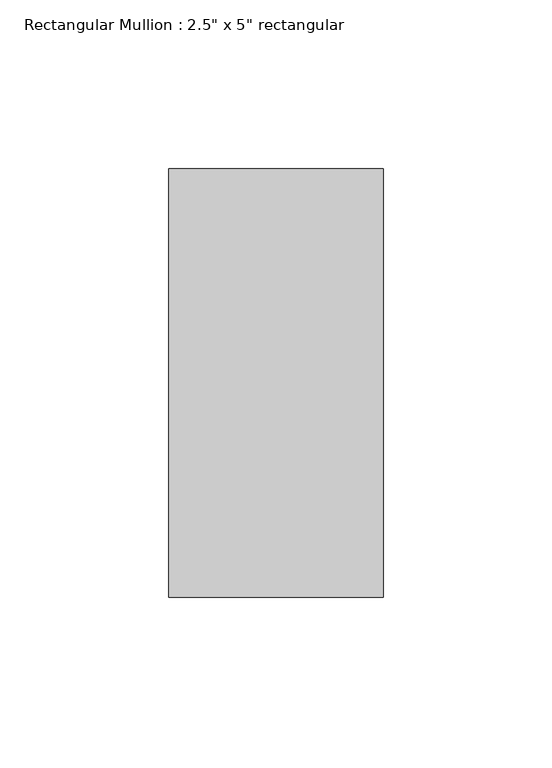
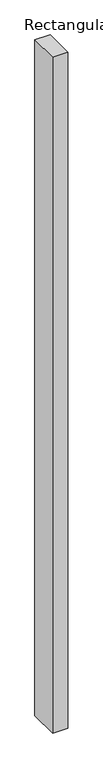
"""IFC4 building model written with IfcOpenShell, lengths in millimetres: member geometry."""

import ifcopenshell
import ifcopenshell.guid

model = None  # the IFC model being written
_history = None  # IfcOwnerHistory: only IFC2X3 demands one
_inside = {}  # id of a spatial element -> (the spatial element, [elements in it])
_under = {}  # id of a project, library or spatial element -> (it, [spatial elements below it])
_declared = {}  # id of a project -> (the project, [libraries it declares])
_typed = {}  # id of a type object -> (the type object, [elements of that type])
_made_of = {}  # id of a material, layer set ... -> (it, [elements and type objects made of it])


def new_model(schema):
    """Start an empty IFC model of exactly this schema.

    Asked for "IFC4X3", IfcOpenShell would pick the latest addendum, in which some entities
    have other attributes; the version numbers below select the first issue.
    IFC2X3 requires an IfcOwnerHistory on every rooted entity: one is made here for all.
    """
    global model, _history
    if schema == "IFC4X3":
        model = ifcopenshell.file(schema_version=(4, 3, 0, 0))
    else:
        model = ifcopenshell.file(schema=schema)
    _inside.clear()
    _under.clear()
    _declared.clear()
    _typed.clear()
    _made_of.clear()
    _history = None
    if model.schema == "IFC2X3":
        org = make("IfcOrganization", Name="unknown")
        user = make(
            "IfcPersonAndOrganization",
            ThePerson=make("IfcPerson", FamilyName="unknown"),
            TheOrganization=org,
        )
        app = make(
            "IfcApplication",
            ApplicationDeveloper=org,
            Version="unknown",
            ApplicationFullName="unknown",
            ApplicationIdentifier="unknown",
        )
        _history = make(
            "IfcOwnerHistory",
            OwningUser=user,
            OwningApplication=app,
            ChangeAction="ADDED",
            CreationDate=0,
        )
    return model


def make(cls, **values):
    """One entity of the class cls with the attributes given. An attribute that is None is left unset."""
    return model.create_entity(
        cls, **{name: value for name, value in values.items() if value is not None}
    )


def rooted(cls, **values):
    """An entity with a GlobalId (a new one), such as an element, a storey or a relation."""
    return make(cls, GlobalId=ifcopenshell.guid.new(), OwnerHistory=_history, **values)


def si_unit(unit_type, name, prefix=None):
    """IfcSIUnit, for example si_unit("LENGTHUNIT", "METRE", prefix="MILLI")."""
    return make("IfcSIUnit", UnitType=unit_type, Prefix=prefix, Name=name)


def assignment(units):
    """IfcUnitAssignment: the units of a project."""
    return None if units is None else make("IfcUnitAssignment", Units=units)


def point(xyz):
    """IfcCartesianPoint."""
    return None if xyz is None else make("IfcCartesianPoint", Coordinates=xyz)


def direction(xyz):
    """IfcDirection."""
    return None if xyz is None else make("IfcDirection", DirectionRatios=xyz)


def frame(location, z_axis=None, x_axis=None):
    """IfcAxis2Placement3D, a coordinate frame: its origin and axes. An axis left out is left unset."""
    return make(
        "IfcAxis2Placement3D",
        Location=point(location),
        Axis=direction(z_axis),
        RefDirection=direction(x_axis),
    )


def origin():
    """The frame at (0, 0, 0) with its axes left unset."""
    return frame((0.0, 0.0, 0.0))


def place(relative_to, where):
    """IfcLocalPlacement: puts the frame where relative to a parent placement (None: the world)."""
    return make(
        "IfcLocalPlacement", PlacementRelTo=relative_to, RelativePlacement=where
    )


def context(
    kind, dimensions, precision=None, world=None, true_north=None, identifier=None
):
    """IfcGeometricRepresentationContext, for example the 3D "Model" context."""
    return make(
        "IfcGeometricRepresentationContext",
        ContextIdentifier=identifier,
        ContextType=kind,
        CoordinateSpaceDimension=dimensions,
        Precision=precision,
        WorldCoordinateSystem=world,
        TrueNorth=true_north,
    )


def project(units=None, contexts=None):
    """IfcProject with its units and contexts."""
    return rooted(
        "IfcProject",
        Name="project",
        RepresentationContexts=contexts,
        UnitsInContext=assignment(units),
    )


def spatial(cls, under=None, at=None, **own):
    """A site, building, storey or space (cls), placed at a placement, below another one or the project."""
    s = rooted(cls, ObjectPlacement=at, **own)
    if under is not None:
        _under.setdefault(under.id(), (under, []))[1].append(s)
    return s


def polyline(points):
    """IfcPolyline through the points."""
    return make("IfcPolyline", Points=[point(p) for p in points])


def outline(outer, holes=None, kind="AREA"):
    """IfcArbitraryClosedProfileDef: a profile drawn as a closed curve; with holes, ...WithVoids."""
    if holes is None:
        return make("IfcArbitraryClosedProfileDef", ProfileType=kind, OuterCurve=outer)
    return make(
        "IfcArbitraryProfileDefWithVoids",
        ProfileType=kind,
        OuterCurve=outer,
        InnerCurves=holes,
    )


def extrude(swept, where, along, depth):
    """IfcExtrudedAreaSolid: the profile swept, set in the frame where, extruded along a direction by depth."""
    return make(
        "IfcExtrudedAreaSolid",
        SweptArea=swept,
        Position=where,
        ExtrudedDirection=direction(along),
        Depth=depth,
    )


def shape(context_of_items, identifier, shape_type, items):
    """IfcShapeRepresentation: the items that make up one representation, for example the "Body"."""
    return make(
        "IfcShapeRepresentation",
        ContextOfItems=context_of_items,
        RepresentationIdentifier=identifier,
        RepresentationType=shape_type,
        Items=items,
    )


def source(mapping_origin, context_of_items, identifier, shape_type, items):
    """IfcRepresentationMap: a shape defined once, which mapped items show again and again."""
    return make(
        "IfcRepresentationMap",
        MappingOrigin=mapping_origin,
        MappedRepresentation=shape(context_of_items, identifier, shape_type, items),
    )


def transform(
    local_origin,
    x_axis=None,
    y_axis=None,
    z_axis=None,
    scale=None,
    scale2=None,
    scale3=None,
    uniform=True,
):
    """IfcCartesianTransformationOperator3D, or its non-uniform kind. x_axis, y_axis, z_axis: its Axis1, 2, 3."""
    if uniform:
        return make(
            "IfcCartesianTransformationOperator3D",
            Axis1=direction(x_axis),
            Axis2=direction(y_axis),
            LocalOrigin=point(local_origin),
            Scale=scale,
            Axis3=direction(z_axis),
        )
    return make(
        "IfcCartesianTransformationOperator3DnonUniform",
        Axis1=direction(x_axis),
        Axis2=direction(y_axis),
        LocalOrigin=point(local_origin),
        Scale=scale,
        Axis3=direction(z_axis),
        Scale2=scale2,
        Scale3=scale3,
    )


def mapped(mapping_source, mapping_target):
    """IfcMappedItem: shows the shape of a source again, moved by a transform."""
    return make(
        "IfcMappedItem", MappingSource=mapping_source, MappingTarget=mapping_target
    )


def made_of(thing, what):
    """Note that an element or type object is made of a material, layer set ...; save() writes the relation."""
    if what is not None:
        _made_of.setdefault(what.id(), (what, []))[1].append(thing)
    return thing


def element(
    cls,
    number,
    at=None,
    inside=None,
    cuts=None,
    type_object=None,
    material=None,
    context=None,
    identifier="Body",
    shape_type=None,
    held_by="IfcProductDefinitionShape",
    body=None,
    shapes=None,
    **own,
):
    """One element of the class cls, such as IfcWall. Its Tag is "e" and its number.

    at: its placement. inside: the storey or other place that contains it. cuts: it is an
    opening in that element (IfcRelVoidsElement). A single representation is given by context,
    identifier, shape_type and body (its items); several are given by shapes. held_by: the class
    of the entity that holds the representations. save() writes the other relations.
    """
    e = rooted(cls, Tag="e%d" % number, ObjectPlacement=at, **own)
    if body is not None:
        shapes = [shape(context, identifier, shape_type, body)]
    if shapes is not None:
        e.Representation = make(held_by, Representations=shapes)
    if inside is not None:
        _inside.setdefault(inside.id(), (inside, []))[1].append(e)
    if cuts is not None:
        rooted(
            "IfcRelVoidsElement", RelatingBuildingElement=cuts, RelatedOpeningElement=e
        )
    if type_object is not None:
        _typed.setdefault(type_object.id(), (type_object, []))[1].append(e)
    return made_of(e, material)


def aggregate(whole, parts):
    """IfcRelAggregates: a whole, such as a stair, and the parts it consists of."""
    return rooted("IfcRelAggregates", RelatingObject=whole, RelatedObjects=parts)


def save(model, path):
    """Write the relations noted so far, then the file.

    IfcRelAggregates (storeys below a building ...), IfcRelContainedInSpatialStructure (elements
    in a storey), IfcRelDefinesByType, IfcRelAssociatesMaterial and IfcRelDeclares: one each for
    every whole, place, type object, material and project.
    """
    for whole, parts in _under.values():
        aggregate(whole, parts)
    for where, things in _inside.values():
        rooted(
            "IfcRelContainedInSpatialStructure",
            RelatedElements=things,
            RelatingStructure=where,
        )
    for kind, things in _typed.values():
        rooted("IfcRelDefinesByType", RelatedObjects=things, RelatingType=kind)
    for what, things in _made_of.values():
        rooted("IfcRelAssociatesMaterial", RelatedObjects=things, RelatingMaterial=what)
    for by, libraries in _declared.values():
        rooted("IfcRelDeclares", RelatingContext=by, RelatedDefinitions=libraries)
    model.write(path)


def member_513efdbe(model_context):
    return source(origin(), model_context, "Body", "SweptSolid", [
        extrude(outline(polyline([(31.75, 63.5), (31.75, -63.5), (-31.75, -63.5), (-31.75, 63.5), (31.75, 63.5)])), frame((0.0, 0.0, -2971.4252182), z_axis=(0.0, 0.0, 1.0), x_axis=(1.0, 0.0, 0.0)), (0.0, 0.0, 1.0), 2971.4252182),
    ])


if __name__ == "__main__":
    model = new_model("IFC4")
    model_context = context("Model", 3, world=origin())
    ifc_project = project(units=[si_unit("LENGTHUNIT", "METRE", prefix="MILLI")], contexts=[model_context])
    site = spatial("IfcSite", under=ifc_project)
    building = spatial("IfcBuilding", under=site)
    placement = place(None, origin())
    member_shape = member_513efdbe(model_context)
    element("IfcMember", 1, ObjectType="Rectangular Mullion : 2.5\" x 5\" rectangular", at=placement, inside=building, context=model_context, shape_type="MappedRepresentation", body=[
        mapped(member_shape, transform((0.0, 0.0, 0.0), x_axis=(1.0, 0.0, 0.0), y_axis=(0.0, 1.0, 0.0), z_axis=(0.0, 0.0, 1.0))),
    ])
    save(model, "model.ifc")
